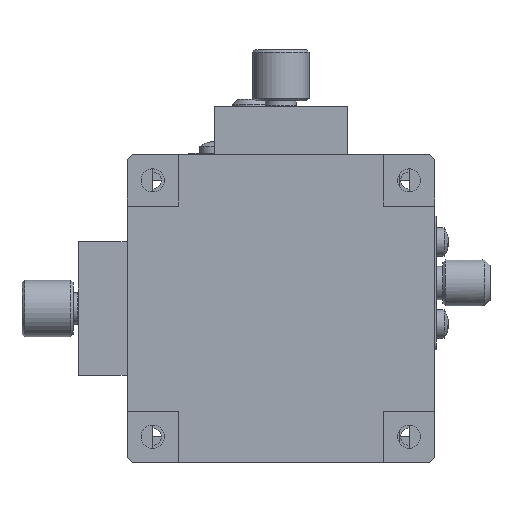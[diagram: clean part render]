
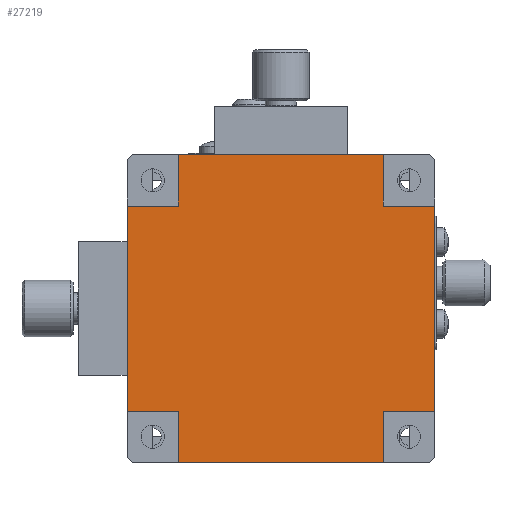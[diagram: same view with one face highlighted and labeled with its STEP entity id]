
A CAD part, front view. The second image highlights one B-rep face of the part: STEP entity #27219.
In plain terms, the highlighted planar face has unit normal (0, -1, 0).
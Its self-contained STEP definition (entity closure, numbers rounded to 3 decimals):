
#100 = CARTESIAN_POINT ( 'NONE',  ( 50., 0.4, 60. ) ) ;
#481 = LINE ( 'NONE', #14436, #2755 ) ;
#842 = CARTESIAN_POINT ( 'NONE',  ( 60., 0.4, 10. ) ) ;
#1914 = DIRECTION ( 'NONE',  ( 0., -1., 0. ) ) ;
#2056 = CARTESIAN_POINT ( 'NONE',  ( 0., 0.4, 10. ) ) ;
#2070 = EDGE_CURVE ( 'NONE', #30184, #29409, #25201, .T. ) ;
#2755 = VECTOR ( 'NONE', #44494, 1000. ) ;
#3080 = CARTESIAN_POINT ( 'NONE',  ( 0., 0.4, 0. ) ) ;
#3147 = CARTESIAN_POINT ( 'NONE',  ( 0., 0.4, 60. ) ) ;
#3347 = CARTESIAN_POINT ( 'NONE',  ( 10., 0.4, 60. ) ) ;
#3601 = CARTESIAN_POINT ( 'NONE',  ( 0., 0.4, 50. ) ) ;
#3604 = EDGE_LOOP ( 'NONE', ( #20343, #35115, #41671, #31143, #18004, #10457, #13810, #42254, #32361, #12865, #44068, #9733 ) ) ;
#4017 = VECTOR ( 'NONE', #8880, 1000. ) ;
#4609 = CARTESIAN_POINT ( 'NONE',  ( 50., 0.4, 10. ) ) ;
#5245 = CARTESIAN_POINT ( 'NONE',  ( 50., 0.4, 0. ) ) ;
#5256 = VECTOR ( 'NONE', #28085, 1000. ) ;
#5274 = LINE ( 'NONE', #30043, #37471 ) ;
#5768 = CARTESIAN_POINT ( 'NONE',  ( 0., 0.4, 50. ) ) ;
#5886 = EDGE_CURVE ( 'NONE', #23175, #37260, #37429, .T. ) ;
#8362 = VECTOR ( 'NONE', #28388, 1000. ) ;
#8880 = DIRECTION ( 'NONE',  ( 1., 0., 0. ) ) ;
#8971 = DIRECTION ( 'NONE',  ( 1., 0., 0. ) ) ;
#9103 = VERTEX_POINT ( 'NONE', #10353 ) ;
#9334 = EDGE_CURVE ( 'NONE', #26276, #9103, #38246, .T. ) ;
#9733 = ORIENTED_EDGE ( 'NONE', *, *, #9334, .F. ) ;
#10199 = CARTESIAN_POINT ( 'NONE',  ( 50., 0.4, 0. ) ) ;
#10353 = CARTESIAN_POINT ( 'NONE',  ( 10., 0.4, 50. ) ) ;
#10457 = ORIENTED_EDGE ( 'NONE', *, *, #5886, .F. ) ;
#10903 = EDGE_CURVE ( 'NONE', #26899, #11182, #47154, .T. ) ;
#11182 = VERTEX_POINT ( 'NONE', #2056 ) ;
#11380 = EDGE_CURVE ( 'NONE', #35874, #16606, #32573, .T. ) ;
#11719 = EDGE_CURVE ( 'NONE', #23139, #31366, #46249, .T. ) ;
#12865 = ORIENTED_EDGE ( 'NONE', *, *, #11719, .F. ) ;
#13810 = ORIENTED_EDGE ( 'NONE', *, *, #33558, .T. ) ;
#14436 = CARTESIAN_POINT ( 'NONE',  ( 50., 0.4, 60. ) ) ;
#15232 = VECTOR ( 'NONE', #8971, 1000. ) ;
#15320 = AXIS2_PLACEMENT_3D ( 'NONE', #34875, #1914, #39217 ) ;
#15637 = CARTESIAN_POINT ( 'NONE',  ( 60., 0.4, 50. ) ) ;
#16606 = VERTEX_POINT ( 'NONE', #15637 ) ;
#17304 = CARTESIAN_POINT ( 'NONE',  ( 0., 0.4, 10. ) ) ;
#17682 = LINE ( 'NONE', #36215, #23259 ) ;
#17744 = DIRECTION ( 'NONE',  ( 1., 0., 0. ) ) ;
#18004 = ORIENTED_EDGE ( 'NONE', *, *, #24622, .F. ) ;
#19131 = EDGE_CURVE ( 'NONE', #31366, #35874, #481, .T. ) ;
#19259 = DIRECTION ( 'NONE',  ( 0., 0., 1. ) ) ;
#20159 = VECTOR ( 'NONE', #42595, 1000. ) ;
#20343 = ORIENTED_EDGE ( 'NONE', *, *, #34576, .T. ) ;
#20911 = VECTOR ( 'NONE', #17744, 1000. ) ;
#21224 = EDGE_CURVE ( 'NONE', #30184, #26899, #5274, .T. ) ;
#21452 = LINE ( 'NONE', #3147, #8362 ) ;
#21994 = CARTESIAN_POINT ( 'NONE',  ( 50., 0.4, 50. ) ) ;
#23139 = VERTEX_POINT ( 'NONE', #3347 ) ;
#23175 = VERTEX_POINT ( 'NONE', #41812 ) ;
#23259 = VECTOR ( 'NONE', #47522, 1000. ) ;
#23816 = PLANE ( 'NONE',  #15320 ) ;
#24568 = VECTOR ( 'NONE', #26881, 1000. ) ;
#24622 = EDGE_CURVE ( 'NONE', #37260, #29409, #38217, .T. ) ;
#25201 = LINE ( 'NONE', #3080, #20911 ) ;
#26228 = CARTESIAN_POINT ( 'NONE',  ( 10., 0.4, 10. ) ) ;
#26276 = VERTEX_POINT ( 'NONE', #3601 ) ;
#26881 = DIRECTION ( 'NONE',  ( 0., 0., -1. ) ) ;
#26899 = VERTEX_POINT ( 'NONE', #26228 ) ;
#27219 = ADVANCED_FACE ( 'NONE', ( #27641 ), #23816, .T. ) ;
#27641 = FACE_OUTER_BOUND ( 'NONE', #3604, .T. ) ;
#27946 = CARTESIAN_POINT ( 'NONE',  ( 0., 0.4, 60. ) ) ;
#28085 = DIRECTION ( 'NONE',  ( 0., 0., 1. ) ) ;
#28388 = DIRECTION ( 'NONE',  ( 0., 0., -1. ) ) ;
#28867 = VECTOR ( 'NONE', #40317, 1000. ) ;
#29198 = CARTESIAN_POINT ( 'NONE',  ( 60., 0.4, 50. ) ) ;
#29409 = VERTEX_POINT ( 'NONE', #10199 ) ;
#30043 = CARTESIAN_POINT ( 'NONE',  ( 10., 0.4, 0. ) ) ;
#30184 = VERTEX_POINT ( 'NONE', #47093 ) ;
#31143 = ORIENTED_EDGE ( 'NONE', *, *, #2070, .T. ) ;
#31366 = VERTEX_POINT ( 'NONE', #100 ) ;
#32361 = ORIENTED_EDGE ( 'NONE', *, *, #19131, .F. ) ;
#32573 = LINE ( 'NONE', #29198, #46808 ) ;
#33558 = EDGE_CURVE ( 'NONE', #23175, #16606, #35096, .T. ) ;
#34576 = EDGE_CURVE ( 'NONE', #26276, #11182, #21452, .T. ) ;
#34875 = CARTESIAN_POINT ( 'NONE',  ( 30., 0.4, 30. ) ) ;
#35096 = LINE ( 'NONE', #38478, #5256 ) ;
#35115 = ORIENTED_EDGE ( 'NONE', *, *, #10903, .F. ) ;
#35874 = VERTEX_POINT ( 'NONE', #21994 ) ;
#36215 = CARTESIAN_POINT ( 'NONE',  ( 10., 0.4, 60. ) ) ;
#37260 = VERTEX_POINT ( 'NONE', #4609 ) ;
#37429 = LINE ( 'NONE', #842, #28867 ) ;
#37471 = VECTOR ( 'NONE', #19259, 1000. ) ;
#38217 = LINE ( 'NONE', #5245, #24568 ) ;
#38246 = LINE ( 'NONE', #5768, #4017 ) ;
#38478 = CARTESIAN_POINT ( 'NONE',  ( 60., 0.4, 60. ) ) ;
#39217 = DIRECTION ( 'NONE',  ( 0., 0., -1. ) ) ;
#40317 = DIRECTION ( 'NONE',  ( -1., 0., 0. ) ) ;
#41671 = ORIENTED_EDGE ( 'NONE', *, *, #21224, .F. ) ;
#41812 = CARTESIAN_POINT ( 'NONE',  ( 60., 0.4, 10. ) ) ;
#42254 = ORIENTED_EDGE ( 'NONE', *, *, #11380, .F. ) ;
#42595 = DIRECTION ( 'NONE',  ( -1., 0., 0. ) ) ;
#43310 = EDGE_CURVE ( 'NONE', #9103, #23139, #17682, .T. ) ;
#44068 = ORIENTED_EDGE ( 'NONE', *, *, #43310, .F. ) ;
#44494 = DIRECTION ( 'NONE',  ( 0., 0., -1. ) ) ;
#46249 = LINE ( 'NONE', #27946, #15232 ) ;
#46808 = VECTOR ( 'NONE', #47264, 1000. ) ;
#47093 = CARTESIAN_POINT ( 'NONE',  ( 10., 0.4, 0. ) ) ;
#47154 = LINE ( 'NONE', #17304, #20159 ) ;
#47264 = DIRECTION ( 'NONE',  ( 1., 0., 0. ) ) ;
#47522 = DIRECTION ( 'NONE',  ( 0., 0., 1. ) ) ;
